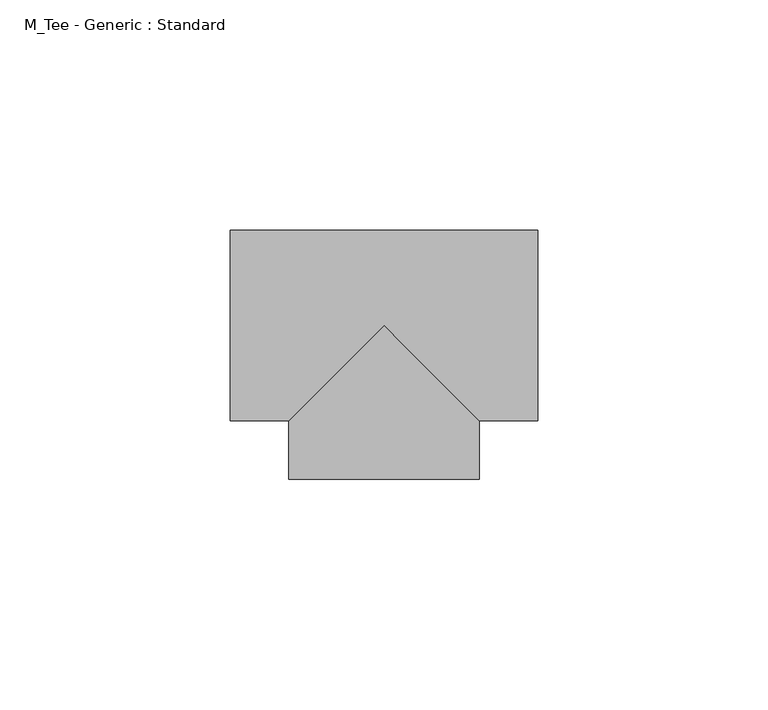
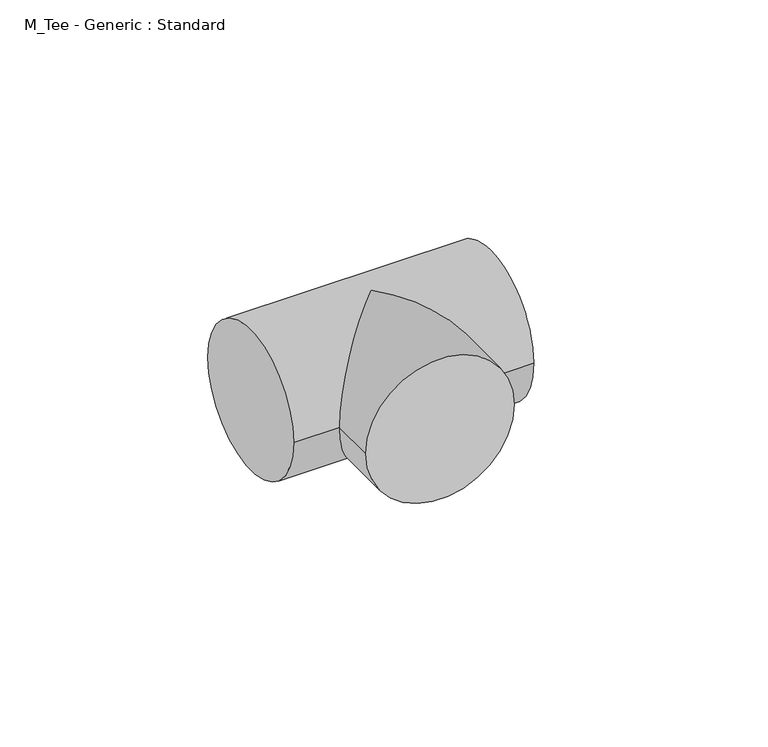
"""IFC4 building model written with IfcOpenShell, lengths in millimetres: pipe fitting geometry, M_Tee - Generic : Standard."""

import ifcopenshell
import ifcopenshell.guid

model = None  # the IFC model being written
_history = None  # IfcOwnerHistory: only IFC2X3 demands one
_inside = {}  # id of a spatial element -> (the spatial element, [elements in it])
_under = {}  # id of a project, library or spatial element -> (it, [spatial elements below it])
_declared = {}  # id of a project -> (the project, [libraries it declares])
_typed = {}  # id of a type object -> (the type object, [elements of that type])
_made_of = {}  # id of a material, layer set ... -> (it, [elements and type objects made of it])


def new_model(schema):
    """Start an empty IFC model of exactly this schema.

    Asked for "IFC4X3", IfcOpenShell would pick the latest addendum, in which some entities
    have other attributes; the version numbers below select the first issue.
    IFC2X3 requires an IfcOwnerHistory on every rooted entity: one is made here for all.
    """
    global model, _history
    if schema == "IFC4X3":
        model = ifcopenshell.file(schema_version=(4, 3, 0, 0))
    else:
        model = ifcopenshell.file(schema=schema)
    _inside.clear()
    _under.clear()
    _declared.clear()
    _typed.clear()
    _made_of.clear()
    _history = None
    if model.schema == "IFC2X3":
        org = make("IfcOrganization", Name="unknown")
        user = make(
            "IfcPersonAndOrganization",
            ThePerson=make("IfcPerson", FamilyName="unknown"),
            TheOrganization=org,
        )
        app = make(
            "IfcApplication",
            ApplicationDeveloper=org,
            Version="unknown",
            ApplicationFullName="unknown",
            ApplicationIdentifier="unknown",
        )
        _history = make(
            "IfcOwnerHistory",
            OwningUser=user,
            OwningApplication=app,
            ChangeAction="ADDED",
            CreationDate=0,
        )
    return model


def make(cls, **values):
    """One entity of the class cls with the attributes given. An attribute that is None is left unset."""
    return model.create_entity(
        cls, **{name: value for name, value in values.items() if value is not None}
    )


def rooted(cls, **values):
    """An entity with a GlobalId (a new one), such as an element, a storey or a relation."""
    return make(cls, GlobalId=ifcopenshell.guid.new(), OwnerHistory=_history, **values)


def si_unit(unit_type, name, prefix=None):
    """IfcSIUnit, for example si_unit("LENGTHUNIT", "METRE", prefix="MILLI")."""
    return make("IfcSIUnit", UnitType=unit_type, Prefix=prefix, Name=name)


def assignment(units):
    """IfcUnitAssignment: the units of a project."""
    return None if units is None else make("IfcUnitAssignment", Units=units)


def point(xyz):
    """IfcCartesianPoint."""
    return None if xyz is None else make("IfcCartesianPoint", Coordinates=xyz)


def direction(xyz):
    """IfcDirection."""
    return None if xyz is None else make("IfcDirection", DirectionRatios=xyz)


def frame(location, z_axis=None, x_axis=None):
    """IfcAxis2Placement3D, a coordinate frame: its origin and axes. An axis left out is left unset."""
    return make(
        "IfcAxis2Placement3D",
        Location=point(location),
        Axis=direction(z_axis),
        RefDirection=direction(x_axis),
    )


def origin():
    """The frame at (0, 0, 0) with its axes left unset."""
    return frame((0.0, 0.0, 0.0))


def place(relative_to, where):
    """IfcLocalPlacement: puts the frame where relative to a parent placement (None: the world)."""
    return make(
        "IfcLocalPlacement", PlacementRelTo=relative_to, RelativePlacement=where
    )


def context(
    kind, dimensions, precision=None, world=None, true_north=None, identifier=None
):
    """IfcGeometricRepresentationContext, for example the 3D "Model" context."""
    return make(
        "IfcGeometricRepresentationContext",
        ContextIdentifier=identifier,
        ContextType=kind,
        CoordinateSpaceDimension=dimensions,
        Precision=precision,
        WorldCoordinateSystem=world,
        TrueNorth=true_north,
    )


def project(units=None, contexts=None):
    """IfcProject with its units and contexts."""
    return rooted(
        "IfcProject",
        Name="project",
        RepresentationContexts=contexts,
        UnitsInContext=assignment(units),
    )


def spatial(cls, under=None, at=None, **own):
    """A site, building, storey or space (cls), placed at a placement, below another one or the project."""
    s = rooted(cls, ObjectPlacement=at, **own)
    if under is not None:
        _under.setdefault(under.id(), (under, []))[1].append(s)
    return s


def circle_curve(where, radius):
    """IfcCircle in the frame where."""
    return make("IfcCircle", Position=where, Radius=radius)


def ellipse_curve(where, semi_axis1, semi_axis2):
    """IfcEllipse in the frame where."""
    return make(
        "IfcEllipse", Position=where, SemiAxis1=semi_axis1, SemiAxis2=semi_axis2
    )


def shape(context_of_items, identifier, shape_type, items):
    """IfcShapeRepresentation: the items that make up one representation, for example the "Body"."""
    return make(
        "IfcShapeRepresentation",
        ContextOfItems=context_of_items,
        RepresentationIdentifier=identifier,
        RepresentationType=shape_type,
        Items=items,
    )


def source(mapping_origin, context_of_items, identifier, shape_type, items):
    """IfcRepresentationMap: a shape defined once, which mapped items show again and again."""
    return make(
        "IfcRepresentationMap",
        MappingOrigin=mapping_origin,
        MappedRepresentation=shape(context_of_items, identifier, shape_type, items),
    )


def transform(
    local_origin,
    x_axis=None,
    y_axis=None,
    z_axis=None,
    scale=None,
    scale2=None,
    scale3=None,
    uniform=True,
):
    """IfcCartesianTransformationOperator3D, or its non-uniform kind. x_axis, y_axis, z_axis: its Axis1, 2, 3."""
    if uniform:
        return make(
            "IfcCartesianTransformationOperator3D",
            Axis1=direction(x_axis),
            Axis2=direction(y_axis),
            LocalOrigin=point(local_origin),
            Scale=scale,
            Axis3=direction(z_axis),
        )
    return make(
        "IfcCartesianTransformationOperator3DnonUniform",
        Axis1=direction(x_axis),
        Axis2=direction(y_axis),
        LocalOrigin=point(local_origin),
        Scale=scale,
        Axis3=direction(z_axis),
        Scale2=scale2,
        Scale3=scale3,
    )


def mapped(mapping_source, mapping_target):
    """IfcMappedItem: shows the shape of a source again, moved by a transform."""
    return make(
        "IfcMappedItem", MappingSource=mapping_source, MappingTarget=mapping_target
    )


def made_of(thing, what):
    """Note that an element or type object is made of a material, layer set ...; save() writes the relation."""
    if what is not None:
        _made_of.setdefault(what.id(), (what, []))[1].append(thing)
    return thing


def element(
    cls,
    number,
    at=None,
    inside=None,
    cuts=None,
    type_object=None,
    material=None,
    context=None,
    identifier="Body",
    shape_type=None,
    held_by="IfcProductDefinitionShape",
    body=None,
    shapes=None,
    **own,
):
    """One element of the class cls, such as IfcWall. Its Tag is "e" and its number.

    at: its placement. inside: the storey or other place that contains it. cuts: it is an
    opening in that element (IfcRelVoidsElement). A single representation is given by context,
    identifier, shape_type and body (its items); several are given by shapes. held_by: the class
    of the entity that holds the representations. save() writes the other relations.
    """
    e = rooted(cls, Tag="e%d" % number, ObjectPlacement=at, **own)
    if body is not None:
        shapes = [shape(context, identifier, shape_type, body)]
    if shapes is not None:
        e.Representation = make(held_by, Representations=shapes)
    if inside is not None:
        _inside.setdefault(inside.id(), (inside, []))[1].append(e)
    if cuts is not None:
        rooted(
            "IfcRelVoidsElement", RelatingBuildingElement=cuts, RelatedOpeningElement=e
        )
    if type_object is not None:
        _typed.setdefault(type_object.id(), (type_object, []))[1].append(e)
    return made_of(e, material)


def aggregate(whole, parts):
    """IfcRelAggregates: a whole, such as a stair, and the parts it consists of."""
    return rooted("IfcRelAggregates", RelatingObject=whole, RelatedObjects=parts)


def save(model, path):
    """Write the relations noted so far, then the file.

    IfcRelAggregates (storeys below a building ...), IfcRelContainedInSpatialStructure (elements
    in a storey), IfcRelDefinesByType, IfcRelAssociatesMaterial and IfcRelDeclares: one each for
    every whole, place, type object, material and project.
    """
    for whole, parts in _under.values():
        aggregate(whole, parts)
    for where, things in _inside.values():
        rooted(
            "IfcRelContainedInSpatialStructure",
            RelatedElements=things,
            RelatingStructure=where,
        )
    for kind, things in _typed.values():
        rooted("IfcRelDefinesByType", RelatedObjects=things, RelatingType=kind)
    for what, things in _made_of.values():
        rooted("IfcRelAssociatesMaterial", RelatedObjects=things, RelatingMaterial=what)
    for by, libraries in _declared.values():
        rooted("IfcRelDeclares", RelatingContext=by, RelatedDefinitions=libraries)
    model.write(path)


def plane_surface(at):
    """IfcPlane: the flat surface through the origin of the frame at, square to its z axis."""
    return make("IfcPlane", Position=at)


def cylinder_surface(at, radius):
    """IfcCylindricalSurface: all points at the distance radius from the z axis of the frame at."""
    return make("IfcCylindricalSurface", Position=at, Radius=radius)


def advanced_brep(points, edges, surfaces, faces):
    """IfcAdvancedBrep: a solid bounded by faces that lie on surfaces and meet in shared edges.

    An edge is (start, end): straight between two places in points (the first is 0);
    or (start, end, curve); or (start, end, curve, False) where it runs against its curve.
    A face is (place in surfaces, loops), or (place, loops, False) where it looks against
    its surface's normal. A loop lists edges by number (the first is 1), with a minus sign
    where the edge is run from its end to its start. The first loop is the outer one.
    """
    corners = [point(p) for p in points]
    vertices = [make("IfcVertexPoint", VertexGeometry=c) for c in corners]
    made = []
    for start, end, *more in edges:
        made.append(
            make(
                "IfcEdgeCurve",
                EdgeStart=vertices[start],
                EdgeEnd=vertices[end],
                EdgeGeometry=more[0] if more else make("IfcPolyline", Points=[corners[start], corners[end]]),
                SameSense=more[1] if len(more) > 1 else True,
            )
        )
    hull = []
    for where, loops, *sense in faces:
        bounds = []
        for j, loop in enumerate(loops):
            ring = [make("IfcOrientedEdge", EdgeElement=made[abs(k) - 1], Orientation=k > 0) for k in loop]
            bounds.append(
                make(
                    "IfcFaceOuterBound" if j == 0 else "IfcFaceBound",
                    Bound=make("IfcEdgeLoop", EdgeList=ring),
                    Orientation=True,
                )
            )
        hull.append(make("IfcAdvancedFace", Bounds=bounds, FaceSurface=surfaces[where], SameSense=sense[0] if sense else True))
    return make("IfcAdvancedBrep", Outer=make("IfcClosedShell", CfsFaces=hull))


def m_tee_generic_standard_3d02b783(model_context):
    return source(origin(), model_context, "Body", "AdvancedBrep", [
        advanced_brep(
        [(-33.3375, -20.6375, 0.0), (-33.3375, 20.6375, 0.0), (33.3375, -20.6375, 0.0), (33.3375, 20.6375, 0.0), (-20.6375, -20.6375, 0.0), (0.0, 0.0, 20.6375), (20.6375, -20.6375, 0.0), (0.0, 0.0, -20.6375), (-20.6375, -33.3375, 0.0), (20.6375, -33.3375, 0.0)],
        [
            (0, 1, circle_curve(frame((-33.3375, 0.0, 0.0), z_axis=(-1.0, 0.0, 0.0), x_axis=(0.0, 1.0, 0.0)), 20.6375)),
            (1, 0, circle_curve(frame((-33.3375, 0.0, 0.0), z_axis=(-1.0, 0.0, 0.0), x_axis=(0.0, 1.0, 0.0)), 20.6375)),
            (2, 3, circle_curve(frame((33.3375, 0.0, 0.0), z_axis=(1.0, 0.0, 0.0), x_axis=(0.0, 1.0, 0.0)), 20.6375)),
            (3, 2, circle_curve(frame((33.3375, 0.0, 0.0), z_axis=(1.0, 0.0, 0.0), x_axis=(0.0, 1.0, 0.0)), 20.6375)),
            (0, 4),
            (4, 5, ellipse_curve(frame((0.0, 0.0, 0.0), z_axis=(-0.707106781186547, 0.7071067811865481, 0.0), x_axis=(-0.707106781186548, -0.707106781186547, 0.0)), 29.1858324, 20.6375)),
            (5, 6, ellipse_curve(frame((0.0, 0.0, 0.0), z_axis=(0.707106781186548, 0.7071067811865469, 0.0), x_axis=(-0.707106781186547, 0.707106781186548, 0.0)), 29.1858324, 20.6375)),
            (6, 2),
            (3, 1),
            (6, 7, ellipse_curve(frame((0.0, 0.0, 0.0), z_axis=(0.707106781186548, 0.7071067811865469, 0.0), x_axis=(-0.707106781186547, 0.707106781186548, 0.0)), 29.1858324, 20.6375)),
            (7, 4, ellipse_curve(frame((0.0, 0.0, 0.0), z_axis=(-0.707106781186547, 0.7071067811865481, 0.0), x_axis=(-0.707106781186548, -0.707106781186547, 0.0)), 29.1858324, 20.6375)),
            (8, 9, circle_curve(frame((0.0, -33.3375, 0.0), z_axis=(0.0, -1.0, 0.0), x_axis=(1.0, 0.0, 0.0)), 20.6375)),
            (9, 8, circle_curve(frame((0.0, -33.3375, 0.0), z_axis=(0.0, -1.0, 0.0), x_axis=(1.0, 0.0, 0.0)), 20.6375)),
            (9, 6),
            (4, 8),
        ],
        [
            plane_surface(frame((-33.3375, 0.0, 0.0), z_axis=(-1.0, 0.0, 0.0), x_axis=(0.0, 0.0, 1.0))),
            plane_surface(frame((33.3375, 0.0, 0.0), z_axis=(1.0, 0.0, 0.0), x_axis=(0.0, 0.0, 1.0))),
            cylinder_surface(frame((-33.3375, 0.0, 0.0), z_axis=(-1.0, 0.0, 0.0), x_axis=(0.0, 1.0, 0.0)), 20.6375),
            plane_surface(frame((0.0, -33.3375, 0.0), z_axis=(0.0, -1.0, 0.0), x_axis=(0.0, 0.0, 1.0))),
            cylinder_surface(frame((0.0, 0.0, 0.0), z_axis=(0.0, 1.0, 0.0), x_axis=(1.0, 0.0, 0.0)), 20.6375),
        ],
        [
            (0, [[1, 2]]),
            (1, [[3, 4]]),
            (2, [[-1, 5, 6, 7, 8, -4, 9]]),
            (2, [[-2, -9, -3, -8, 10, 11, -5]]),
            (3, [[12, 13]]),
            (4, [[-13, 14, -7, -6, 15]]),
            (4, [[-12, -15, -11, -10, -14]]),
        ],
    ),
    ])


if __name__ == "__main__":
    model = new_model("IFC4")
    model_context = context("Model", 3, world=origin())
    ifc_project = project(units=[si_unit("LENGTHUNIT", "METRE", prefix="MILLI")], contexts=[model_context])
    site = spatial("IfcSite", under=ifc_project)
    building = spatial("IfcBuilding", under=site)
    placement = place(None, origin())
    m_tee_generic_standard_shape = m_tee_generic_standard_3d02b783(model_context)
    element("IfcPipeFitting", 1, ObjectType="M_Tee - Generic : Standard", at=placement, inside=building, context=model_context, shape_type="MappedRepresentation", body=[
        mapped(m_tee_generic_standard_shape, transform((0.0, 0.0, 0.0), x_axis=(1.0, 0.0, 0.0), y_axis=(0.0, 1.0, 0.0), z_axis=(0.0, 0.0, 1.0))),
    ])
    save(model, "model.ifc")
